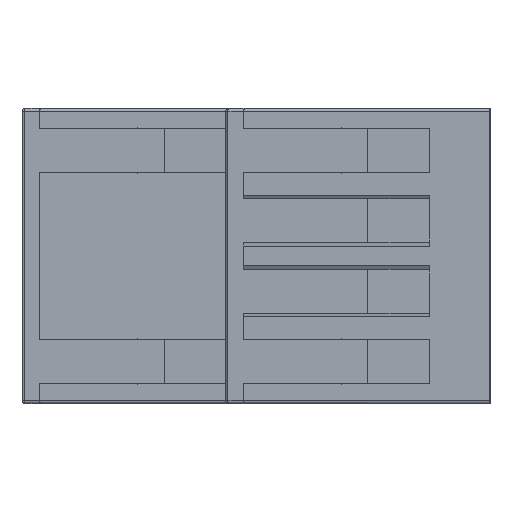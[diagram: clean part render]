
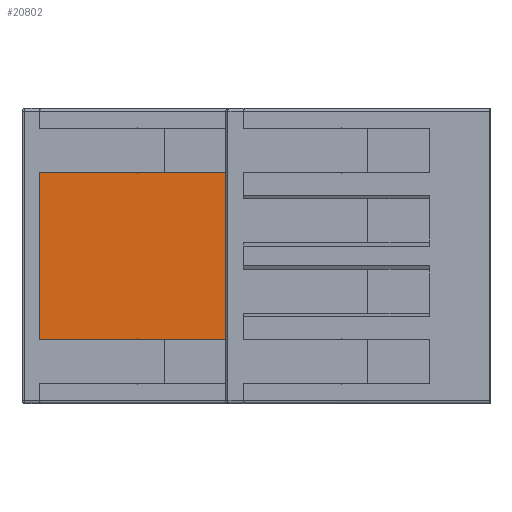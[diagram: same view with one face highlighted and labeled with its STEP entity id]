
A CAD part, left-side view. The second image highlights one B-rep face of the part: STEP entity #20802.
In plain terms, the highlighted planar face has unit normal (-1, 0, 0).
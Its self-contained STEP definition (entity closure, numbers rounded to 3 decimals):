
#88 = CARTESIAN_POINT ( 'NONE',  ( -36.201, -4.003, 7.6 ) ) ;
#144 = ORIENTED_EDGE ( 'NONE', *, *, #18254, .T. ) ;
#193 = CARTESIAN_POINT ( 'NONE',  ( -36.201, 3.997, 7.6 ) ) ;
#753 = VERTEX_POINT ( 'NONE', #88 ) ;
#921 = DIRECTION ( 'NONE',  ( 0., -1., 0. ) ) ;
#1366 = CARTESIAN_POINT ( 'NONE',  ( -36.201, 3.997, -7.6 ) ) ;
#1482 = CARTESIAN_POINT ( 'NONE',  ( -36.201, -4.003, 13.45 ) ) ;
#4184 = CARTESIAN_POINT ( 'NONE',  ( -36.201, 12.897, 7.6 ) ) ;
#4809 = DIRECTION ( 'NONE',  ( 0., 0., -1. ) ) ;
#5200 = EDGE_CURVE ( 'NONE', #11553, #34061, #24047, .T. ) ;
#5212 = DIRECTION ( 'NONE',  ( 0., 0., -1. ) ) ;
#6100 = LINE ( 'NONE', #10189, #25921 ) ;
#6759 = EDGE_CURVE ( 'NONE', #27904, #32956, #24870, .T. ) ;
#8748 = DIRECTION ( 'NONE',  ( 0., 1., 0. ) ) ;
#8982 = VECTOR ( 'NONE', #4809, 1000. ) ;
#9035 = EDGE_CURVE ( 'NONE', #753, #34061, #32210, .T. ) ;
#10136 = DIRECTION ( 'NONE',  ( 0., 0., 1. ) ) ;
#10189 = CARTESIAN_POINT ( 'NONE',  ( -36.201, -4.003, 7.6 ) ) ;
#10765 = CARTESIAN_POINT ( 'NONE',  ( -36.201, -4.003, 13.45 ) ) ;
#11471 = DIRECTION ( 'NONE',  ( 0., -1., 0. ) ) ;
#11553 = VERTEX_POINT ( 'NONE', #1366 ) ;
#12198 = EDGE_CURVE ( 'NONE', #32956, #36466, #16482, .T. ) ;
#13926 = ORIENTED_EDGE ( 'NONE', *, *, #9035, .F. ) ;
#14152 = EDGE_CURVE ( 'NONE', #36466, #11553, #20318, .T. ) ;
#16482 = LINE ( 'NONE', #21711, #8982 ) ;
#16541 = VECTOR ( 'NONE', #11471, 1000. ) ;
#16893 = ORIENTED_EDGE ( 'NONE', *, *, #14152, .T. ) ;
#17181 = VECTOR ( 'NONE', #5212, 1000. ) ;
#17362 = VECTOR ( 'NONE', #8748, 1000. ) ;
#17889 = ORIENTED_EDGE ( 'NONE', *, *, #5200, .T. ) ;
#18047 = CARTESIAN_POINT ( 'NONE',  ( -36.201, -4.003, -7.6 ) ) ;
#18254 = EDGE_CURVE ( 'NONE', #753, #27904, #6100, .T. ) ;
#19217 = CARTESIAN_POINT ( 'NONE',  ( -36.201, 3.997, 7.6 ) ) ;
#20318 = LINE ( 'NONE', #31924, #35354 ) ;
#20802 = ADVANCED_FACE ( 'NONE', ( #32418 ), #24190, .F. ) ;
#21227 = ORIENTED_EDGE ( 'NONE', *, *, #12198, .T. ) ;
#21612 = EDGE_LOOP ( 'NONE', ( #21227, #16893, #17889, #13926, #144, #26759 ) ) ;
#21711 = CARTESIAN_POINT ( 'NONE',  ( -36.201, 12.897, 13.45 ) ) ;
#24047 = LINE ( 'NONE', #28365, #16541 ) ;
#24190 = PLANE ( 'NONE',  #33283 ) ;
#24870 = LINE ( 'NONE', #193, #17362 ) ;
#25921 = VECTOR ( 'NONE', #32661, 1000. ) ;
#26759 = ORIENTED_EDGE ( 'NONE', *, *, #6759, .T. ) ;
#26997 = DIRECTION ( 'NONE',  ( 1., 0., 0. ) ) ;
#27904 = VERTEX_POINT ( 'NONE', #19217 ) ;
#28365 = CARTESIAN_POINT ( 'NONE',  ( -36.201, -4.003, -7.6 ) ) ;
#31267 = CARTESIAN_POINT ( 'NONE',  ( -36.201, 12.897, -7.6 ) ) ;
#31924 = CARTESIAN_POINT ( 'NONE',  ( -36.201, -4.003, -7.6 ) ) ;
#32210 = LINE ( 'NONE', #10765, #17181 ) ;
#32418 = FACE_OUTER_BOUND ( 'NONE', #21612, .T. ) ;
#32661 = DIRECTION ( 'NONE',  ( 0., 1., 0. ) ) ;
#32956 = VERTEX_POINT ( 'NONE', #4184 ) ;
#33283 = AXIS2_PLACEMENT_3D ( 'NONE', #1482, #26997, #10136 ) ;
#34061 = VERTEX_POINT ( 'NONE', #18047 ) ;
#35354 = VECTOR ( 'NONE', #921, 1000. ) ;
#36466 = VERTEX_POINT ( 'NONE', #31267 ) ;
